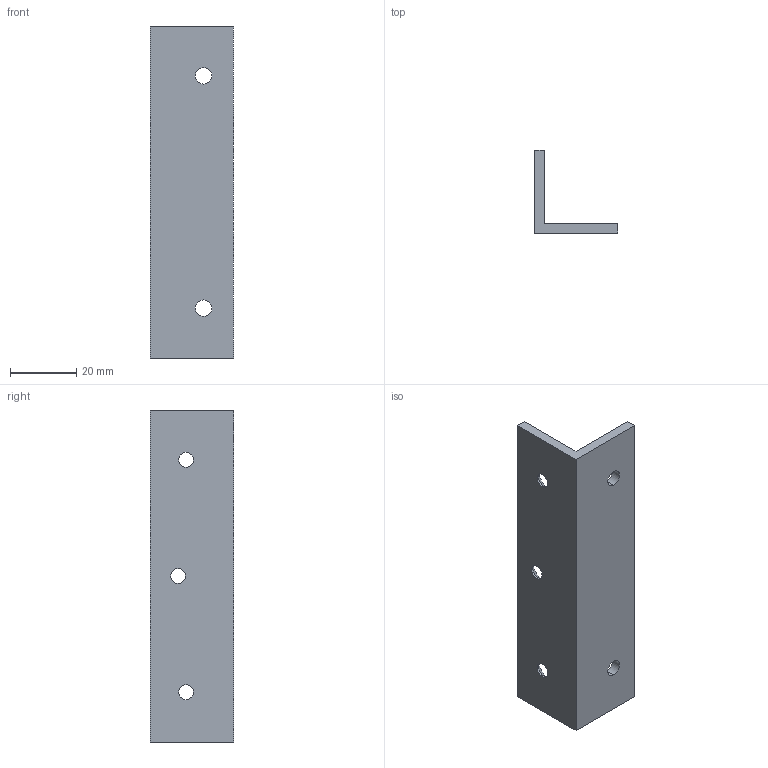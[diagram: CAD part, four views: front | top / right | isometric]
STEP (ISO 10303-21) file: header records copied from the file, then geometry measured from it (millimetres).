
FILE_DESCRIPTION (( 'STEP AP203' ), '1' );
FILE_NAME ('013.100.040.STEP', '2021-11-12T14:13:56', ( '' ), ( '' ), 'SwSTEP 2.0', 'SolidWorks 2018', '' );
FILE_SCHEMA (( 'CONFIG_CONTROL_DESIGN' ));
Length unit declared in the file: millimetre
Products named in the file (1): 013.100.040
Bounding box: 25 x 25 x 100 mm (x, y, z)
Volume: 13665.6 mm3; surface area: 10292.1 mm2
Topology: 1 solids, 1 shells, 24 faces, 60 edges, 38 vertices
Faces by surface type: cylinder 10, plane 8, cone 6
Entity records: 819 total; most frequent: DIRECTION 136, CARTESIAN_POINT 123, ORIENTED_EDGE 120, EDGE_CURVE 60, AXIS2_PLACEMENT_3D 51, VERTEX_POINT 38, LINE 34, EDGE_LOOP 34
